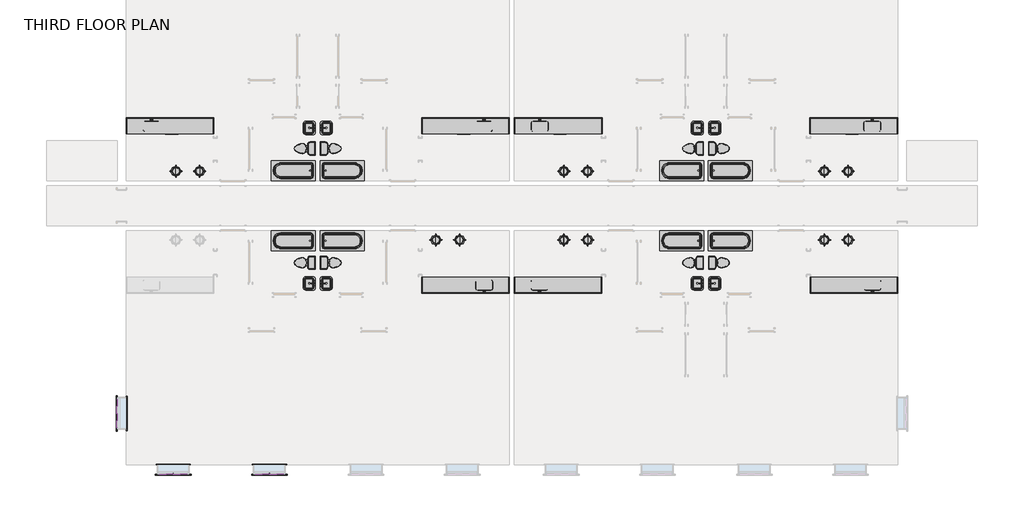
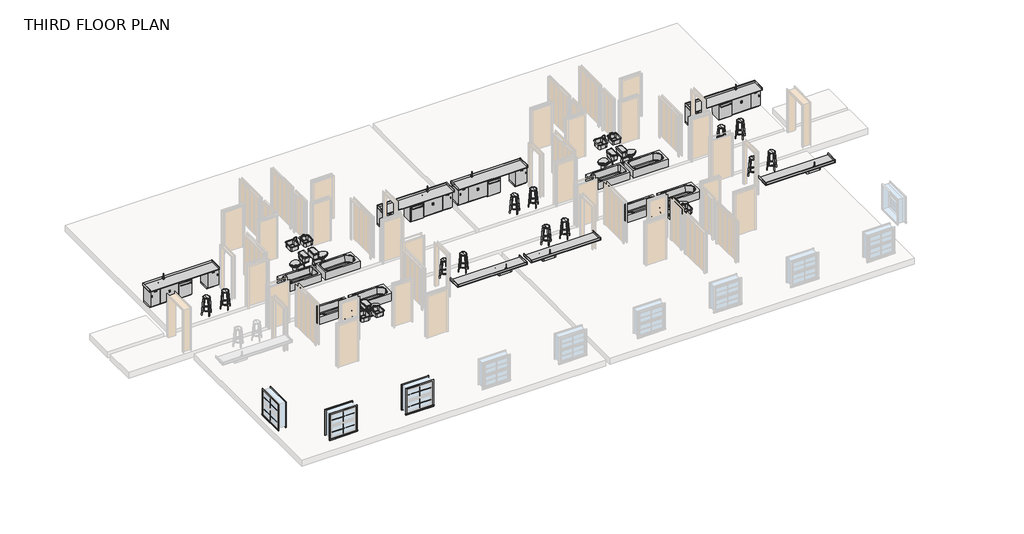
# One storey, part 2 of 3: 31 flow terminals, 31 furniture elements, 16 proxies.
"""IFC4 building model written with IfcOpenShell, lengths in millimetres."""

from ifc_helpers import new_model, si_unit, origin, place, context, project, spatial, transform, mapped, element, save
from components import k2515_dishwasher_household_k2515_dishwasher_household_cf2658f5, k2515_dishwasher_household_k2515_dishwasher_household_46c228bc, muntin_pattern_2x2_muntin_pattern_2x2_770224b8, muntin_pattern_2x2_muntin_pattern_2x2_cf99dd86, trim_window_exterior_flat_with_sill_ac84ebb5, trim_window_interior_flat_picture_frame_caf2db4f, lsy_sink_1a_065a4558, lsy_sink_1a_83b20bf5, flow_terminal_62a433f7, flow_terminal_4d0de4d3, toilet_domestic_3d_toilet_domestic_3d_f7549cf7, toilet_domestic_3d_toilet_domestic_3d_183bbd19, toilet_domestic_3d_toilet_domestic_3d_a08e12bc, toilet_domestic_3d_toilet_domestic_3d_5530cc89, tub_rectangular_3d_tub_rectangular_3d_2253513b, tub_rectangular_3d_tub_rectangular_3d_4e1d8e59, hb12_hb12_18_68083de8, hb12_hb12_18_c50c6706, hb12_hb12_21_dfdbf895, hb12_hb12_21_72806c5e, lsy_bench_top_24dx36h_e849d271, lsy_bench_top_24dx36h_08832318, lsy_bench_top_24dx36h_2ddf329b, lsy_bench_top_24dx36h_1d034a2a, lab_stool_lab_stool_8e3c4d68, lab_stool_lab_stool_061d08b2, sb02_sb2_36_93bd8c5c, sb02_sb2_36_312036f5

model = new_model("IFC4")

# Units and contexts
model_context = context("Model", 3, world=origin())
ifc_project = project(units=[si_unit("LENGTHUNIT", "METRE", prefix="MILLI")], contexts=[model_context])

# Site, building, storey
site = spatial("IfcSite", under=ifc_project)
building = spatial("IfcBuilding", under=site)
storey = spatial("IfcBuildingStorey", under=building, Name="THIRD FLOOR PLAN", Elevation=5689.6)

# Proxies
placement = place(None, origin())
k2515_dishwasher_household_k2515_dishwasher_household_shape = k2515_dishwasher_household_k2515_dishwasher_household_cf2658f5(model_context)
element("IfcBuildingElementProxy", 1, Name="K2515 - Dishwasher, Household : K2515 - Dishwasher, Household", ObjectType="K2515 - Dishwasher, Household : K2515 - Dishwasher, Household", at=placement, inside=storey, context=model_context, shape_type="MappedRepresentation", body=[
    mapped(k2515_dishwasher_household_k2515_dishwasher_household_shape, transform((-3453.9790125, 8530.5137881, 5689.6), x_axis=(1.0, 0.0, 0.0), y_axis=(0.0, 1.0, 0.0), z_axis=(0.0, 0.0, 1.0))),
])
element("IfcBuildingElementProxy", 2, Name="K2515 - Dishwasher, Household : K2515 - Dishwasher, Household", ObjectType="K2515 - Dishwasher, Household : K2515 - Dishwasher, Household", at=placement, inside=storey, context=model_context, shape_type="MappedRepresentation", body=[
    mapped(k2515_dishwasher_household_k2515_dishwasher_household_shape, transform((11370.4209875, 8530.5137881, 5689.6), x_axis=(1.0, 0.0, 0.0), y_axis=(0.0, 1.0, 0.0), z_axis=(0.0, 0.0, 1.0))),
])
k2515_dishwasher_household_k2515_dishwasher_household_2_shape = k2515_dishwasher_household_k2515_dishwasher_household_46c228bc(model_context)
element("IfcBuildingElementProxy", 3, Name="K2515 - Dishwasher, Household : K2515 - Dishwasher, Household", ObjectType="K2515 - Dishwasher, Household : K2515 - Dishwasher, Household", at=placement, inside=storey, context=model_context, shape_type="MappedRepresentation", body=[
    mapped(k2515_dishwasher_household_k2515_dishwasher_household_2_shape, transform((7690.5959875, 8530.5137881, 5689.6), x_axis=(-1.0, 0.0, 0.0), y_axis=(0.0, -1.0, 0.0), z_axis=(0.0, 0.0, 1.0))),
])
element("IfcBuildingElementProxy", 4, Name="K2515 - Dishwasher, Household : K2515 - Dishwasher, Household", ObjectType="K2515 - Dishwasher, Household : K2515 - Dishwasher, Household", at=placement, inside=storey, context=model_context, shape_type="MappedRepresentation", body=[
    mapped(k2515_dishwasher_household_k2515_dishwasher_household_2_shape, transform((22514.9959875, 8530.5137881, 5689.6), x_axis=(-1.0, 0.0, 0.0), y_axis=(0.0, -1.0, 0.0), z_axis=(0.0, 0.0, 1.0))),
])
muntin_pattern_2x2_muntin_pattern_2x2_shape = muntin_pattern_2x2_muntin_pattern_2x2_770224b8(model_context)
element("IfcBuildingElementProxy", 5, Name="Muntin Pattern_2x2 : Muntin Pattern_2x2", ObjectType="Muntin Pattern_2x2 : Muntin Pattern_2x2", at=placement, inside=storey, context=model_context, shape_type="MappedRepresentation", body=[
    mapped(muntin_pattern_2x2_muntin_pattern_2x2_shape, transform((-5537.3665125, -2431.3796179, 7283.45), x_axis=(0.0, -1.0, 0.0), y_axis=(1.0, 0.0, 0.0), z_axis=(0.0, 0.0, 1.0))),
])
element("IfcBuildingElementProxy", 6, Name="Muntin Pattern_2x2 : Muntin Pattern_2x2", ObjectType="Muntin Pattern_2x2 : Muntin Pattern_2x2", at=placement, inside=storey, context=model_context, shape_type="MappedRepresentation", body=[
    mapped(muntin_pattern_2x2_muntin_pattern_2x2_shape, transform((-3399.0477625, -4742.0612119, 7283.45), x_axis=(1.0, 0.0, 0.0), y_axis=(0.0, 1.0, 0.0), z_axis=(0.0, 0.0, 1.0))),
])
element("IfcBuildingElementProxy", 7, Name="Muntin Pattern_2x2 : Muntin Pattern_2x2", ObjectType="Muntin Pattern_2x2 : Muntin Pattern_2x2", at=placement, inside=storey, context=model_context, shape_type="MappedRepresentation", body=[
    mapped(muntin_pattern_2x2_muntin_pattern_2x2_shape, transform((271.9647375, -4742.0612119, 7283.45), x_axis=(1.0, 0.0, 0.0), y_axis=(0.0, 1.0, 0.0), z_axis=(0.0, 0.0, 1.0))),
])
muntin_pattern_2x2_muntin_pattern_2x2_2_shape = muntin_pattern_2x2_muntin_pattern_2x2_cf99dd86(model_context)
element("IfcBuildingElementProxy", 8, Name="Muntin Pattern_2x2 : Muntin Pattern_2x2", ObjectType="Muntin Pattern_2x2 : Muntin Pattern_2x2", at=placement, inside=storey, context=model_context, shape_type="MappedRepresentation", body=[
    mapped(muntin_pattern_2x2_muntin_pattern_2x2_2_shape, transform((-5537.3665125, -2431.3796179, 6673.85), x_axis=(0.0, -1.0, 0.0), y_axis=(1.0, 0.0, 0.0), z_axis=(0.0, 0.0, 1.0))),
])
element("IfcBuildingElementProxy", 9, Name="Muntin Pattern_2x2 : Muntin Pattern_2x2", ObjectType="Muntin Pattern_2x2 : Muntin Pattern_2x2", at=placement, inside=storey, context=model_context, shape_type="MappedRepresentation", body=[
    mapped(muntin_pattern_2x2_muntin_pattern_2x2_2_shape, transform((-3399.0477625, -4742.0612119, 6673.85), x_axis=(1.0, 0.0, 0.0), y_axis=(0.0, 1.0, 0.0), z_axis=(0.0, 0.0, 1.0))),
])
element("IfcBuildingElementProxy", 10, Name="Muntin Pattern_2x2 : Muntin Pattern_2x2", ObjectType="Muntin Pattern_2x2 : Muntin Pattern_2x2", at=placement, inside=storey, context=model_context, shape_type="MappedRepresentation", body=[
    mapped(muntin_pattern_2x2_muntin_pattern_2x2_2_shape, transform((271.9647375, -4742.0612119, 6673.85), x_axis=(1.0, 0.0, 0.0), y_axis=(0.0, 1.0, 0.0), z_axis=(0.0, 0.0, 1.0))),
])
trim_window_exterior_flat_with_sill_shape = trim_window_exterior_flat_with_sill_ac84ebb5(model_context)
element("IfcBuildingElementProxy", 11, Name="Trim-Window-Exterior-Flat : with Sill", ObjectType="Trim-Window-Exterior-Flat : with Sill", at=placement, inside=storey, context=model_context, shape_type="MappedRepresentation", body=[
    mapped(trim_window_exterior_flat_with_sill_shape, transform((-5546.8915125, -2431.3796179, 7823.2), x_axis=(0.0, 1.0, 0.0), y_axis=(0.0, 0.0, -1.0), z_axis=(-1.0, 0.0, 0.0))),
])
element("IfcBuildingElementProxy", 12, Name="Trim-Window-Exterior-Flat : with Sill", ObjectType="Trim-Window-Exterior-Flat : with Sill", at=placement, inside=storey, context=model_context, shape_type="MappedRepresentation", body=[
    mapped(trim_window_exterior_flat_with_sill_shape, transform((-3399.0477625, -4751.5862119, 7823.2), x_axis=(-1.0, 0.0, 0.0), y_axis=(0.0, 0.0, -1.0), z_axis=(0.0, -1.0, 0.0))),
])
element("IfcBuildingElementProxy", 13, Name="Trim-Window-Exterior-Flat : with Sill", ObjectType="Trim-Window-Exterior-Flat : with Sill", at=placement, inside=storey, context=model_context, shape_type="MappedRepresentation", body=[
    mapped(trim_window_exterior_flat_with_sill_shape, transform((271.9647375, -4751.5862119, 7823.2), x_axis=(-1.0, 0.0, 0.0), y_axis=(0.0, 0.0, -1.0), z_axis=(0.0, -1.0, 0.0))),
])
trim_window_interior_flat_picture_frame_shape = trim_window_interior_flat_picture_frame_caf2db4f(model_context)
element("IfcBuildingElementProxy", 14, Name="Trim-Window-Interior-Flat : Picture Frame", ObjectType="Trim-Window-Interior-Flat : Picture Frame", at=placement, inside=storey, context=model_context, shape_type="MappedRepresentation", body=[
    mapped(trim_window_interior_flat_picture_frame_shape, transform((-5196.8915125, -2431.3796179, 7823.2), x_axis=(0.0, -1.0, 0.0), y_axis=(0.0, 0.0, -1.0), z_axis=(1.0, 0.0, 0.0))),
])
element("IfcBuildingElementProxy", 15, Name="Trim-Window-Interior-Flat : Picture Frame", ObjectType="Trim-Window-Interior-Flat : Picture Frame", at=placement, inside=storey, context=model_context, shape_type="MappedRepresentation", body=[
    mapped(trim_window_interior_flat_picture_frame_shape, transform((-3399.0477625, -4401.5862119, 7823.2), x_axis=(1.0, 0.0, 0.0), y_axis=(0.0, 0.0, -1.0), z_axis=(0.0, 1.0, 0.0))),
])
element("IfcBuildingElementProxy", 16, Name="Trim-Window-Interior-Flat : Picture Frame", ObjectType="Trim-Window-Interior-Flat : Picture Frame", at=placement, inside=storey, context=model_context, shape_type="MappedRepresentation", body=[
    mapped(trim_window_interior_flat_picture_frame_shape, transform((271.9647375, -4401.5862119, 7823.2), x_axis=(1.0, 0.0, 0.0), y_axis=(0.0, 0.0, -1.0), z_axis=(0.0, 1.0, 0.0))),
])

# Flow terminals
lsy_sink_1a_shape = lsy_sink_1a_065a4558(model_context)
element("IfcFlowTerminal", 17, ObjectType="LSY_Sink_1A : 25\"W x 15\"D", at=placement, inside=storey, context=model_context, shape_type="MappedRepresentation", body=[
    mapped(lsy_sink_1a_shape, transform((-4245.7932531, 8626.5933869, 5651.5), x_axis=(1.0, 0.0, 0.0), y_axis=(0.0, 1.0, 0.0), z_axis=(0.0, 0.0, 1.0))),
])
element("IfcFlowTerminal", 18, ObjectType="LSY_Sink_1A : 25\"W x 15\"D", at=placement, inside=storey, context=model_context, shape_type="MappedRepresentation", body=[
    mapped(lsy_sink_1a_shape, transform((8488.922728, 2373.0341892, 5651.5), x_axis=(-1.0, 0.0, 0.0), y_axis=(0.0, -1.0, 0.0), z_axis=(0.0, 0.0, 1.0))),
])
element("IfcFlowTerminal", 19, ObjectType="LSY_Sink_1A : 25\"W x 15\"D", at=placement, inside=storey, context=model_context, shape_type="MappedRepresentation", body=[
    mapped(lsy_sink_1a_shape, transform((10578.6067469, 8626.5933869, 5651.5), x_axis=(1.0, 0.0, 0.0), y_axis=(0.0, 1.0, 0.0), z_axis=(0.0, 0.0, 1.0))),
])
element("IfcFlowTerminal", 20, ObjectType="LSY_Sink_1A : 25\"W x 15\"D", at=placement, inside=storey, context=model_context, shape_type="MappedRepresentation", body=[
    mapped(lsy_sink_1a_shape, transform((23313.322728, 2373.0341892, 5651.5), x_axis=(-1.0, 0.0, 0.0), y_axis=(0.0, -1.0, 0.0), z_axis=(0.0, 0.0, 1.0))),
])
lsy_sink_1a_2_shape = lsy_sink_1a_83b20bf5(model_context)
element("IfcFlowTerminal", 21, ObjectType="LSY_Sink_1A : 25\"W x 15\"D", at=placement, inside=storey, context=model_context, shape_type="MappedRepresentation", body=[
    mapped(lsy_sink_1a_2_shape, transform((8482.410228, 8626.5933869, 5651.5), x_axis=(-1.0, 0.0, 0.0), y_axis=(0.0, -1.0, 0.0), z_axis=(0.0, 0.0, 1.0))),
])
element("IfcFlowTerminal", 22, ObjectType="LSY_Sink_1A : 25\"W x 15\"D", at=placement, inside=storey, context=model_context, shape_type="MappedRepresentation", body=[
    mapped(lsy_sink_1a_2_shape, transform((10572.0942469, 2373.0341892, 5651.5), x_axis=(1.0, 0.0, 0.0), y_axis=(0.0, 1.0, 0.0), z_axis=(0.0, 0.0, 1.0))),
])
element("IfcFlowTerminal", 23, ObjectType="LSY_Sink_1A : 25\"W x 15\"D", at=placement, inside=storey, context=model_context, shape_type="MappedRepresentation", body=[
    mapped(lsy_sink_1a_2_shape, transform((23306.810228, 8626.5933869, 5651.5), x_axis=(-1.0, 0.0, 0.0), y_axis=(0.0, -1.0, 0.0), z_axis=(0.0, 0.0, 1.0))),
])
flow_terminal_shape = flow_terminal_62a433f7(model_context)
element("IfcFlowTerminal", 24, ObjectType="Sink Vanity-Square : 20\" x 18\"", at=placement, inside=storey, context=model_context, shape_type="MappedRepresentation", body=[
    mapped(flow_terminal_shape, transform((1841.1630863, 2548.3030286, 5689.6), x_axis=(0.0, -1.0, 0.0), y_axis=(1.0, 0.0, 0.0), z_axis=(0.0, 0.0, 1.0))),
])
element("IfcFlowTerminal", 25, ObjectType="Sink Vanity-Square : 20\" x 18\"", at=placement, inside=storey, context=model_context, shape_type="MappedRepresentation", body=[
    mapped(flow_terminal_shape, transform((2395.4538886, 2516.9245475, 5689.6), x_axis=(0.0, 1.0, 0.0), y_axis=(-1.0, 0.0, 0.0), z_axis=(0.0, 0.0, 1.0))),
])
element("IfcFlowTerminal", 26, ObjectType="Sink Vanity-Square : 20\" x 18\"", at=placement, inside=storey, context=model_context, shape_type="MappedRepresentation", body=[
    mapped(flow_terminal_shape, transform((16665.1630863, 2548.3030286, 5689.6), x_axis=(0.0, -1.0, 0.0), y_axis=(1.0, 0.0, 0.0), z_axis=(0.0, 0.0, 1.0))),
])
element("IfcFlowTerminal", 27, ObjectType="Sink Vanity-Square : 20\" x 18\"", at=placement, inside=storey, context=model_context, shape_type="MappedRepresentation", body=[
    mapped(flow_terminal_shape, transform((17219.4538886, 2516.9245475, 5689.6), x_axis=(0.0, 1.0, 0.0), y_axis=(-1.0, 0.0, 0.0), z_axis=(0.0, 0.0, 1.0))),
])
flow_terminal_2_shape = flow_terminal_4d0de4d3(model_context)
element("IfcFlowTerminal", 28, ObjectType="Sink Vanity-Square : 20\" x 18\"", at=placement, inside=storey, context=model_context, shape_type="MappedRepresentation", body=[
    mapped(flow_terminal_2_shape, transform((16665.1630863, 8451.3245475, 5689.6), x_axis=(0.0, 1.0, 0.0), y_axis=(-1.0, 0.0, 0.0), z_axis=(0.0, 0.0, 1.0))),
])
element("IfcFlowTerminal", 29, ObjectType="Sink Vanity-Square : 20\" x 18\"", at=placement, inside=storey, context=model_context, shape_type="MappedRepresentation", body=[
    mapped(flow_terminal_2_shape, transform((17219.4538886, 8482.7030286, 5689.6), x_axis=(0.0, -1.0, 0.0), y_axis=(1.0, 0.0, 0.0), z_axis=(0.0, 0.0, 1.0))),
])
element("IfcFlowTerminal", 30, ObjectType="Sink Vanity-Square : 20\" x 18\"", at=placement, inside=storey, context=model_context, shape_type="MappedRepresentation", body=[
    mapped(flow_terminal_2_shape, transform((1841.1630863, 8451.3245475, 5689.6), x_axis=(0.0, 1.0, 0.0), y_axis=(-1.0, 0.0, 0.0), z_axis=(0.0, 0.0, 1.0))),
])
element("IfcFlowTerminal", 31, ObjectType="Sink Vanity-Square : 20\" x 18\"", at=placement, inside=storey, context=model_context, shape_type="MappedRepresentation", body=[
    mapped(flow_terminal_2_shape, transform((2395.4538886, 8482.7030286, 5689.6), x_axis=(0.0, -1.0, 0.0), y_axis=(1.0, 0.0, 0.0), z_axis=(0.0, 0.0, 1.0))),
])
toilet_domestic_3d_toilet_domestic_3d_shape = toilet_domestic_3d_toilet_domestic_3d_f7549cf7(model_context)
toilet_domestic_3d_toilet_domestic_3d_2_shape = toilet_domestic_3d_toilet_domestic_3d_183bbd19(model_context)
element("IfcFlowTerminal", 32, ObjectType="Toilet-Domestic-3D : Toilet-Domestic-3D", at=placement, inside=storey, context=model_context, shape_type="MappedRepresentation", body=[
    mapped(toilet_domestic_3d_toilet_domestic_3d_shape, transform((1526.6124601, 3320.0137881, 5689.6), x_axis=(0.0, -1.0, 0.0), y_axis=(1.0, 0.0, 0.0), z_axis=(0.0, 0.0, 1.0))),
    mapped(toilet_domestic_3d_toilet_domestic_3d_2_shape, transform((1526.6124601, 3320.0137881, 5689.6), x_axis=(0.0, -1.0, 0.0), y_axis=(1.0, 0.0, 0.0), z_axis=(0.0, 0.0, 1.0))),
])
element("IfcFlowTerminal", 33, ObjectType="Toilet-Domestic-3D : Toilet-Domestic-3D", at=placement, inside=storey, context=model_context, shape_type="MappedRepresentation", body=[
    mapped(toilet_domestic_3d_toilet_domestic_3d_shape, transform((2710.0045148, 3320.0137881, 5689.6), x_axis=(0.0, 1.0, 0.0), y_axis=(-1.0, 0.0, 0.0), z_axis=(0.0, 0.0, 1.0))),
    mapped(toilet_domestic_3d_toilet_domestic_3d_2_shape, transform((2710.0045148, 3320.0137881, 5689.6), x_axis=(0.0, 1.0, 0.0), y_axis=(-1.0, 0.0, 0.0), z_axis=(0.0, 0.0, 1.0))),
])
element("IfcFlowTerminal", 34, ObjectType="Toilet-Domestic-3D : Toilet-Domestic-3D", at=placement, inside=storey, context=model_context, shape_type="MappedRepresentation", body=[
    mapped(toilet_domestic_3d_toilet_domestic_3d_shape, transform((16350.6124601, 3320.0137881, 5689.6), x_axis=(0.0, -1.0, 0.0), y_axis=(1.0, 0.0, 0.0), z_axis=(0.0, 0.0, 1.0))),
    mapped(toilet_domestic_3d_toilet_domestic_3d_2_shape, transform((16350.6124601, 3320.0137881, 5689.6), x_axis=(0.0, -1.0, 0.0), y_axis=(1.0, 0.0, 0.0), z_axis=(0.0, 0.0, 1.0))),
])
element("IfcFlowTerminal", 35, ObjectType="Toilet-Domestic-3D : Toilet-Domestic-3D", at=placement, inside=storey, context=model_context, shape_type="MappedRepresentation", body=[
    mapped(toilet_domestic_3d_toilet_domestic_3d_shape, transform((17534.0045148, 3320.0137881, 5689.6), x_axis=(0.0, 1.0, 0.0), y_axis=(-1.0, 0.0, 0.0), z_axis=(0.0, 0.0, 1.0))),
    mapped(toilet_domestic_3d_toilet_domestic_3d_2_shape, transform((17534.0045148, 3320.0137881, 5689.6), x_axis=(0.0, 1.0, 0.0), y_axis=(-1.0, 0.0, 0.0), z_axis=(0.0, 0.0, 1.0))),
])
toilet_domestic_3d_toilet_domestic_3d_3_shape = toilet_domestic_3d_toilet_domestic_3d_a08e12bc(model_context)
toilet_domestic_3d_toilet_domestic_3d_4_shape = toilet_domestic_3d_toilet_domestic_3d_5530cc89(model_context)
element("IfcFlowTerminal", 36, ObjectType="Toilet-Domestic-3D : Toilet-Domestic-3D", at=placement, inside=storey, context=model_context, shape_type="MappedRepresentation", body=[
    mapped(toilet_domestic_3d_toilet_domestic_3d_3_shape, transform((16350.6124601, 7679.6137881, 5689.6), x_axis=(0.0, 1.0, 0.0), y_axis=(-1.0, 0.0, 0.0), z_axis=(0.0, 0.0, 1.0))),
    mapped(toilet_domestic_3d_toilet_domestic_3d_4_shape, transform((16350.6124601, 7679.6137881, 5689.6), x_axis=(0.0, 1.0, 0.0), y_axis=(-1.0, 0.0, 0.0), z_axis=(0.0, 0.0, 1.0))),
])
element("IfcFlowTerminal", 37, ObjectType="Toilet-Domestic-3D : Toilet-Domestic-3D", at=placement, inside=storey, context=model_context, shape_type="MappedRepresentation", body=[
    mapped(toilet_domestic_3d_toilet_domestic_3d_3_shape, transform((17534.0045148, 7679.6137881, 5689.6), x_axis=(0.0, -1.0, 0.0), y_axis=(1.0, 0.0, 0.0), z_axis=(0.0, 0.0, 1.0))),
    mapped(toilet_domestic_3d_toilet_domestic_3d_4_shape, transform((17534.0045148, 7679.6137881, 5689.6), x_axis=(0.0, -1.0, 0.0), y_axis=(1.0, 0.0, 0.0), z_axis=(0.0, 0.0, 1.0))),
])
element("IfcFlowTerminal", 38, ObjectType="Toilet-Domestic-3D : Toilet-Domestic-3D", at=placement, inside=storey, context=model_context, shape_type="MappedRepresentation", body=[
    mapped(toilet_domestic_3d_toilet_domestic_3d_3_shape, transform((1526.6124601, 7679.6137881, 5689.6), x_axis=(0.0, 1.0, 0.0), y_axis=(-1.0, 0.0, 0.0), z_axis=(0.0, 0.0, 1.0))),
    mapped(toilet_domestic_3d_toilet_domestic_3d_4_shape, transform((1526.6124601, 7679.6137881, 5689.6), x_axis=(0.0, 1.0, 0.0), y_axis=(-1.0, 0.0, 0.0), z_axis=(0.0, 0.0, 1.0))),
])
element("IfcFlowTerminal", 39, ObjectType="Toilet-Domestic-3D : Toilet-Domestic-3D", at=placement, inside=storey, context=model_context, shape_type="MappedRepresentation", body=[
    mapped(toilet_domestic_3d_toilet_domestic_3d_3_shape, transform((2710.0045148, 7679.6137881, 5689.6), x_axis=(0.0, -1.0, 0.0), y_axis=(1.0, 0.0, 0.0), z_axis=(0.0, 0.0, 1.0))),
    mapped(toilet_domestic_3d_toilet_domestic_3d_4_shape, transform((2710.0045148, 7679.6137881, 5689.6), x_axis=(0.0, -1.0, 0.0), y_axis=(1.0, 0.0, 0.0), z_axis=(0.0, 0.0, 1.0))),
])
tub_rectangular_3d_tub_rectangular_3d_shape = tub_rectangular_3d_tub_rectangular_3d_2253513b(model_context)
element("IfcFlowTerminal", 40, ObjectType="Tub-Rectangular-3D : Tub-Rectangular-3D", at=placement, inside=storey, context=model_context, shape_type="MappedRepresentation", body=[
    mapped(tub_rectangular_3d_tub_rectangular_3d_shape, transform((3322.7364562, 4636.2137881, 5689.6), x_axis=(1.0, 0.0, 0.0), y_axis=(0.0, 1.0, 0.0), z_axis=(0.0, 0.0, 1.0))),
])
element("IfcFlowTerminal", 41, ObjectType="Tub-Rectangular-3D : Tub-Rectangular-3D", at=placement, inside=storey, context=model_context, shape_type="MappedRepresentation", body=[
    mapped(tub_rectangular_3d_tub_rectangular_3d_shape, transform((18146.7364562, 4636.2137881, 5689.6), x_axis=(1.0, 0.0, 0.0), y_axis=(0.0, 1.0, 0.0), z_axis=(0.0, 0.0, 1.0))),
])
element("IfcFlowTerminal", 42, ObjectType="Tub-Rectangular-3D : Tub-Rectangular-3D", at=placement, inside=storey, context=model_context, shape_type="MappedRepresentation", body=[
    mapped(tub_rectangular_3d_tub_rectangular_3d_shape, transform((15737.8805188, 6363.4137881, 5689.6), x_axis=(-1.0, 0.0, 0.0), y_axis=(0.0, -1.0, 0.0), z_axis=(0.0, 0.0, 1.0))),
])
element("IfcFlowTerminal", 43, ObjectType="Tub-Rectangular-3D : Tub-Rectangular-3D", at=placement, inside=storey, context=model_context, shape_type="MappedRepresentation", body=[
    mapped(tub_rectangular_3d_tub_rectangular_3d_shape, transform((913.8805188, 6363.4137881, 5689.6), x_axis=(-1.0, 0.0, 0.0), y_axis=(0.0, -1.0, 0.0), z_axis=(0.0, 0.0, 1.0))),
])
tub_rectangular_3d_tub_rectangular_3d_2_shape = tub_rectangular_3d_tub_rectangular_3d_4e1d8e59(model_context)
element("IfcFlowTerminal", 44, ObjectType="Tub-Rectangular-3D : Tub-Rectangular-3D", at=placement, inside=storey, context=model_context, shape_type="MappedRepresentation", body=[
    mapped(tub_rectangular_3d_tub_rectangular_3d_2_shape, transform((910.7055188, 4636.2137881, 5689.6), x_axis=(-1.0, 0.0, 0.0), y_axis=(0.0, -1.0, 0.0), z_axis=(0.0, 0.0, 1.0))),
])
element("IfcFlowTerminal", 45, ObjectType="Tub-Rectangular-3D : Tub-Rectangular-3D", at=placement, inside=storey, context=model_context, shape_type="MappedRepresentation", body=[
    mapped(tub_rectangular_3d_tub_rectangular_3d_2_shape, transform((15738.2805188, 4636.2137881, 5689.6), x_axis=(-1.0, 0.0, 0.0), y_axis=(0.0, -1.0, 0.0), z_axis=(0.0, 0.0, 1.0))),
])
element("IfcFlowTerminal", 46, ObjectType="Tub-Rectangular-3D : Tub-Rectangular-3D", at=placement, inside=storey, context=model_context, shape_type="MappedRepresentation", body=[
    mapped(tub_rectangular_3d_tub_rectangular_3d_2_shape, transform((18146.7364562, 6363.4137881, 5689.6), x_axis=(1.0, 0.0, 0.0), y_axis=(0.0, 1.0, 0.0), z_axis=(0.0, 0.0, 1.0))),
])
element("IfcFlowTerminal", 47, ObjectType="Tub-Rectangular-3D : Tub-Rectangular-3D", at=placement, inside=storey, context=model_context, shape_type="MappedRepresentation", body=[
    mapped(tub_rectangular_3d_tub_rectangular_3d_2_shape, transform((3322.7364562, 6363.4137881, 5689.6), x_axis=(1.0, 0.0, 0.0), y_axis=(0.0, 1.0, 0.0), z_axis=(0.0, 0.0, 1.0))),
])

# Furniture
hb12_hb12_18_shape = hb12_hb12_18_68083de8(model_context)
element("IfcFurniture", 48, ObjectType="HB12 : HB12-18", at=placement, inside=storey, context=model_context, shape_type="MappedRepresentation", body=[
    mapped(hb12_hb12_18_shape, transform((9119.6582825, 8848.0137881, 5689.6), x_axis=(1.0, 0.0, 0.0), y_axis=(0.0, 1.0, 0.0), z_axis=(0.0, 0.0, 1.0))),
])
element("IfcFurniture", 49, ObjectType="HB12 : HB12-18", at=placement, inside=storey, context=model_context, shape_type="MappedRepresentation", body=[
    mapped(hb12_hb12_18_shape, transform((23944.0582825, 8848.0137881, 5689.6), x_axis=(1.0, 0.0, 0.0), y_axis=(0.0, 1.0, 0.0), z_axis=(0.0, 0.0, 1.0))),
])
hb12_hb12_18_2_shape = hb12_hb12_18_c50c6706(model_context)
element("IfcFurniture", 50, ObjectType="HB12 : HB12-18", at=placement, inside=storey, context=model_context, shape_type="MappedRepresentation", body=[
    mapped(hb12_hb12_18_2_shape, transform((-4883.0413076, 8848.0137881, 5689.6), x_axis=(-1.0, 0.0, 0.0), y_axis=(0.0, -1.0, 0.0), z_axis=(0.0, 0.0, 1.0))),
])
element("IfcFurniture", 51, ObjectType="HB12 : HB12-18", at=placement, inside=storey, context=model_context, shape_type="MappedRepresentation", body=[
    mapped(hb12_hb12_18_2_shape, transform((9941.3586924, 8848.0137881, 5689.6), x_axis=(-1.0, 0.0, 0.0), y_axis=(0.0, -1.0, 0.0), z_axis=(0.0, 0.0, 1.0))),
])
hb12_hb12_21_shape = hb12_hb12_21_dfdbf895(model_context)
element("IfcFurniture", 52, ObjectType="HB12 : HB12-21", at=placement, inside=storey, context=model_context, shape_type="MappedRepresentation", body=[
    mapped(hb12_hb12_21_shape, transform((-2140.8042175, 8848.0137881, 5689.6), x_axis=(1.0, 0.0, 0.0), y_axis=(0.0, 1.0, 0.0), z_axis=(0.0, 0.0, 1.0))),
])
element("IfcFurniture", 53, ObjectType="HB12 : HB12-21", at=placement, inside=storey, context=model_context, shape_type="MappedRepresentation", body=[
    mapped(hb12_hb12_21_shape, transform((12683.5957825, 8848.0137881, 5689.6), x_axis=(1.0, 0.0, 0.0), y_axis=(0.0, 1.0, 0.0), z_axis=(0.0, 0.0, 1.0))),
])
hb12_hb12_21_2_shape = hb12_hb12_21_72806c5e(model_context)
element("IfcFurniture", 54, ObjectType="HB12 : HB12-21", at=placement, inside=storey, context=model_context, shape_type="MappedRepresentation", body=[
    mapped(hb12_hb12_21_2_shape, transform((6377.4211924, 8848.0137881, 5689.6), x_axis=(-1.0, 0.0, 0.0), y_axis=(0.0, -1.0, 0.0), z_axis=(0.0, 0.0, 1.0))),
])
element("IfcFurniture", 55, ObjectType="HB12 : HB12-21", at=placement, inside=storey, context=model_context, shape_type="MappedRepresentation", body=[
    mapped(hb12_hb12_21_2_shape, transform((21201.8211924, 8848.0137881, 5689.6), x_axis=(-1.0, 0.0, 0.0), y_axis=(0.0, -1.0, 0.0), z_axis=(0.0, 0.0, 1.0))),
])
lsy_bench_top_24dx36h_shape = lsy_bench_top_24dx36h_e849d271(model_context)
element("IfcFurniture", 56, ObjectType="LSY_Bench Top : 24Dx36H", at=placement, inside=storey, context=model_context, shape_type="MappedRepresentation", body=[
    mapped(lsy_bench_top_24dx36h_shape, transform((-3049.3163076, 9463.0137881, 5676.9), x_axis=(-1.0, 0.0, 0.0), y_axis=(0.0, -1.0, 0.0), z_axis=(0.0, 0.0, 1.0))),
])
element("IfcFurniture", 57, ObjectType="LSY_Bench Top : 24Dx36H", at=placement, inside=storey, context=model_context, shape_type="MappedRepresentation", body=[
    mapped(lsy_bench_top_24dx36h_shape, transform((11775.0836924, 9463.0137881, 5676.9), x_axis=(-1.0, 0.0, 0.0), y_axis=(0.0, -1.0, 0.0), z_axis=(0.0, 0.0, 1.0))),
])
lsy_bench_top_24dx36h_2_shape = lsy_bench_top_24dx36h_08832318(model_context)
element("IfcFurniture", 58, ObjectType="LSY_Bench Top : 24Dx36H", at=placement, inside=storey, context=model_context, shape_type="MappedRepresentation", body=[
    mapped(lsy_bench_top_24dx36h_2_shape, transform((7285.9332825, 9463.0137881, 5676.9), x_axis=(1.0, 0.0, 0.0), y_axis=(0.0, 1.0, 0.0), z_axis=(0.0, 0.0, 1.0))),
])
element("IfcFurniture", 59, ObjectType="LSY_Bench Top : 24Dx36H", at=placement, inside=storey, context=model_context, shape_type="MappedRepresentation", body=[
    mapped(lsy_bench_top_24dx36h_2_shape, transform((22110.3332825, 9463.0137881, 5676.9), x_axis=(1.0, 0.0, 0.0), y_axis=(0.0, 1.0, 0.0), z_axis=(0.0, 0.0, 1.0))),
])
lsy_bench_top_24dx36h_3_shape = lsy_bench_top_24dx36h_2ddf329b(model_context)
element("IfcFurniture", 60, ObjectType="LSY_Bench Top : 24Dx36H", at=placement, inside=storey, context=model_context, shape_type="MappedRepresentation", body=[
    mapped(lsy_bench_top_24dx36h_3_shape, transform((11768.5711924, 1536.6137881, 5676.9), x_axis=(-1.0, 0.0, 0.0), y_axis=(0.0, -1.0, 0.0), z_axis=(0.0, 0.0, 1.0))),
])
lsy_bench_top_24dx36h_4_shape = lsy_bench_top_24dx36h_1d034a2a(model_context)
element("IfcFurniture", 61, ObjectType="LSY_Bench Top : 24Dx36H", at=placement, inside=storey, context=model_context, shape_type="MappedRepresentation", body=[
    mapped(lsy_bench_top_24dx36h_4_shape, transform((7292.4457825, 1536.6137881, 5676.9), x_axis=(1.0, 0.0, 0.0), y_axis=(0.0, 1.0, 0.0), z_axis=(0.0, 0.0, 1.0))),
])
element("IfcFurniture", 62, ObjectType="LSY_Bench Top : 24Dx36H", at=placement, inside=storey, context=model_context, shape_type="MappedRepresentation", body=[
    mapped(lsy_bench_top_24dx36h_4_shape, transform((22116.8457825, 1536.6137881, 5676.9), x_axis=(1.0, 0.0, 0.0), y_axis=(0.0, 1.0, 0.0), z_axis=(0.0, 0.0, 1.0))),
])
lab_stool_lab_stool_shape = lab_stool_lab_stool_8e3c4d68(model_context)
element("IfcFurniture", 63, ObjectType="Lab Stool : Lab Stool", at=placement, inside=storey, context=model_context, shape_type="MappedRepresentation", body=[
    mapped(lab_stool_lab_stool_shape, transform((-3297.4124798, 6814.2676792, 5689.6), x_axis=(-1.0, 0.0, 0.0), y_axis=(0.0, -1.0, 0.0), z_axis=(0.0, 0.0, 1.0))),
])
element("IfcFurniture", 64, ObjectType="Lab Stool : Lab Stool", at=placement, inside=storey, context=model_context, shape_type="MappedRepresentation", body=[
    mapped(lab_stool_lab_stool_shape, transform((7534.0209875, 4189.2137881, 5689.6), x_axis=(1.0, 0.0, 0.0), y_axis=(0.0, 1.0, 0.0), z_axis=(0.0, 0.0, 1.0))),
])
element("IfcFurniture", 65, ObjectType="Lab Stool : Lab Stool", at=placement, inside=storey, context=model_context, shape_type="MappedRepresentation", body=[
    mapped(lab_stool_lab_stool_shape, transform((11516.1875202, 6814.2676792, 5689.6), x_axis=(-1.0, 0.0, 0.0), y_axis=(0.0, -1.0, 0.0), z_axis=(0.0, 0.0, 1.0))),
])
element("IfcFurniture", 66, ObjectType="Lab Stool : Lab Stool", at=placement, inside=storey, context=model_context, shape_type="MappedRepresentation", body=[
    mapped(lab_stool_lab_stool_shape, transform((12419.3959875, 4189.2137881, 5689.6), x_axis=(1.0, 0.0, 0.0), y_axis=(0.0, 1.0, 0.0), z_axis=(0.0, 0.0, 1.0))),
])
element("IfcFurniture", 67, ObjectType="Lab Stool : Lab Stool", at=placement, inside=storey, context=model_context, shape_type="MappedRepresentation", body=[
    mapped(lab_stool_lab_stool_shape, transform((21466.0294547, 6814.2676792, 5689.6), x_axis=(-1.0, 0.0, 0.0), y_axis=(0.0, -1.0, 0.0), z_axis=(0.0, 0.0, 1.0))),
])
element("IfcFurniture", 68, ObjectType="Lab Stool : Lab Stool", at=placement, inside=storey, context=model_context, shape_type="MappedRepresentation", body=[
    mapped(lab_stool_lab_stool_shape, transform((22369.2209875, 4189.2137881, 5689.6), x_axis=(1.0, 0.0, 0.0), y_axis=(0.0, 1.0, 0.0), z_axis=(0.0, 0.0, 1.0))),
])
lab_stool_lab_stool_2_shape = lab_stool_lab_stool_061d08b2(model_context)
element("IfcFurniture", 69, ObjectType="Lab Stool : Lab Stool", at=placement, inside=storey, context=model_context, shape_type="MappedRepresentation", body=[
    mapped(lab_stool_lab_stool_2_shape, transform((-2394.2124798, 6814.2676792, 5689.6), x_axis=(1.0, 0.0, 0.0), y_axis=(0.0, 1.0, 0.0), z_axis=(0.0, 0.0, 1.0))),
])
element("IfcFurniture", 70, ObjectType="Lab Stool : Lab Stool", at=placement, inside=storey, context=model_context, shape_type="MappedRepresentation", body=[
    mapped(lab_stool_lab_stool_2_shape, transform((6630.8209875, 4189.2137881, 5689.6), x_axis=(-1.0, 0.0, 0.0), y_axis=(0.0, -1.0, 0.0), z_axis=(0.0, 0.0, 1.0))),
])
element("IfcFurniture", 71, ObjectType="Lab Stool : Lab Stool", at=placement, inside=storey, context=model_context, shape_type="MappedRepresentation", body=[
    mapped(lab_stool_lab_stool_2_shape, transform((12419.3875202, 6814.2676792, 5689.6), x_axis=(1.0, 0.0, 0.0), y_axis=(0.0, 1.0, 0.0), z_axis=(0.0, 0.0, 1.0))),
])
element("IfcFurniture", 72, ObjectType="Lab Stool : Lab Stool", at=placement, inside=storey, context=model_context, shape_type="MappedRepresentation", body=[
    mapped(lab_stool_lab_stool_2_shape, transform((11516.1959875, 4189.2137881, 5689.6), x_axis=(-1.0, 0.0, 0.0), y_axis=(0.0, -1.0, 0.0), z_axis=(0.0, 0.0, 1.0))),
])
element("IfcFurniture", 73, ObjectType="Lab Stool : Lab Stool", at=placement, inside=storey, context=model_context, shape_type="MappedRepresentation", body=[
    mapped(lab_stool_lab_stool_2_shape, transform((22369.2294547, 6814.2676792, 5689.6), x_axis=(1.0, 0.0, 0.0), y_axis=(0.0, 1.0, 0.0), z_axis=(0.0, 0.0, 1.0))),
])
element("IfcFurniture", 74, ObjectType="Lab Stool : Lab Stool", at=placement, inside=storey, context=model_context, shape_type="MappedRepresentation", body=[
    mapped(lab_stool_lab_stool_2_shape, transform((21466.0209875, 4189.2137881, 5689.6), x_axis=(-1.0, 0.0, 0.0), y_axis=(0.0, -1.0, 0.0), z_axis=(0.0, 0.0, 1.0))),
])
sb02_sb2_36_shape = sb02_sb2_36_93bd8c5c(model_context)
element("IfcFurniture", 75, ObjectType="SB02 : SB2-36", at=placement, inside=storey, context=model_context, shape_type="MappedRepresentation", body=[
    mapped(sb02_sb2_36_shape, transform((-4234.7167175, 8848.2137881, 5689.6), x_axis=(1.0, 0.0, 0.0), y_axis=(0.0, 1.0, 0.0), z_axis=(0.0, 0.0, 1.0))),
])
element("IfcFurniture", 76, ObjectType="SB02 : SB2-36", at=placement, inside=storey, context=model_context, shape_type="MappedRepresentation", body=[
    mapped(sb02_sb2_36_shape, transform((10589.6832825, 8848.2137881, 5689.6), x_axis=(1.0, 0.0, 0.0), y_axis=(0.0, 1.0, 0.0), z_axis=(0.0, 0.0, 1.0))),
])
sb02_sb2_36_2_shape = sb02_sb2_36_312036f5(model_context)
element("IfcFurniture", 77, ObjectType="SB02 : SB2-36", at=placement, inside=storey, context=model_context, shape_type="MappedRepresentation", body=[
    mapped(sb02_sb2_36_2_shape, transform((8471.3336924, 8848.2137881, 5689.6), x_axis=(-1.0, 0.0, 0.0), y_axis=(0.0, -1.0, 0.0), z_axis=(0.0, 0.0, 1.0))),
])
element("IfcFurniture", 78, ObjectType="SB02 : SB2-36", at=placement, inside=storey, context=model_context, shape_type="MappedRepresentation", body=[
    mapped(sb02_sb2_36_2_shape, transform((23295.7336924, 8848.2137881, 5689.6), x_axis=(-1.0, 0.0, 0.0), y_axis=(0.0, -1.0, 0.0), z_axis=(0.0, 0.0, 1.0))),
])

save(model, "model.ifc")
